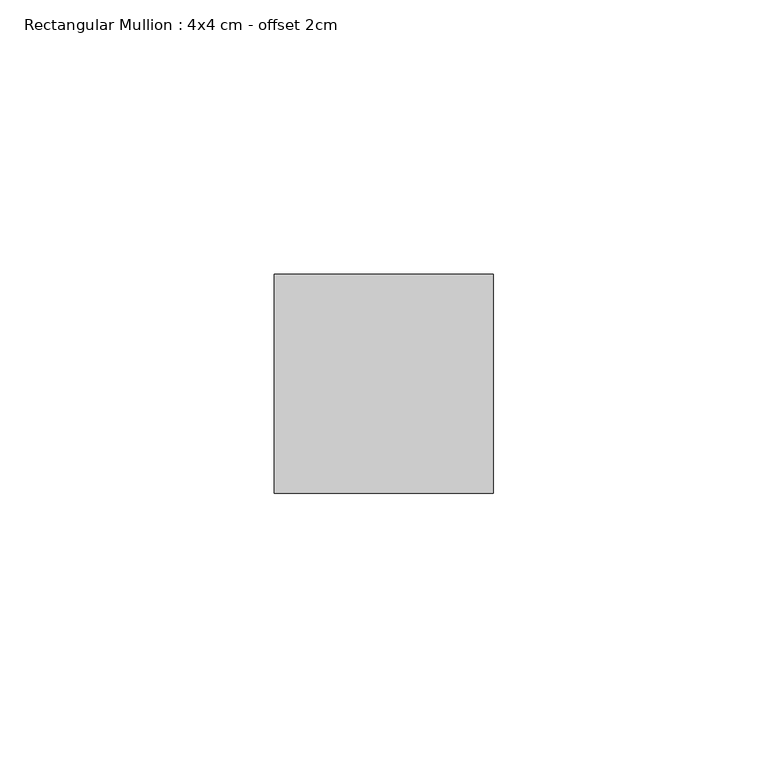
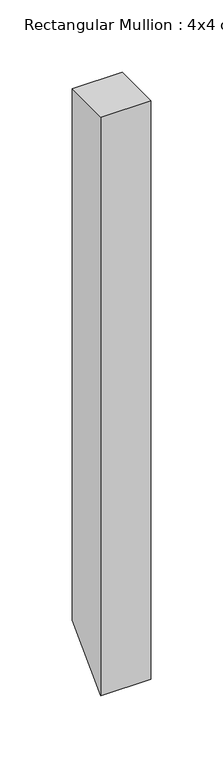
"""IFC4 building model written with IfcOpenShell, lengths in millimetres: member geometry, Rectangular Mullion : 4x4 cm - offset 2cm."""

from ifc_helpers import new_model, si_unit, frame, origin, place, context, project, spatial, polyline, outline, extrude, source, transform, mapped, element, save


def rectangular_mullion_4x4_cm_offset_2cm_072c56ac(model_context):
    return source(origin(), model_context, "Body", "SweptSolid", [
        extrude(outline(polyline([(0.0, 0.0), (40.0, 0.0), (40.0, -449.9999997), (0.0, -489.9999997), (0.0, 0.0)])), frame((-40.0, 0.0, 0.0), z_axis=(1.0, 0.0, 0.0), x_axis=(0.0, 1.0, 0.0)), (0.0, 0.0, 1.0), 40.0),
    ])


if __name__ == "__main__":
    model = new_model("IFC4")
    model_context = context("Model", 3, world=origin())
    ifc_project = project(units=[si_unit("LENGTHUNIT", "METRE", prefix="MILLI")], contexts=[model_context])
    site = spatial("IfcSite", under=ifc_project)
    building = spatial("IfcBuilding", under=site)
    placement = place(None, origin())
    rectangular_mullion_4x4_cm_offset_2cm_shape = rectangular_mullion_4x4_cm_offset_2cm_072c56ac(model_context)
    element("IfcMember", 1, ObjectType="Rectangular Mullion : 4x4 cm - offset 2cm", at=placement, inside=building, context=model_context, shape_type="MappedRepresentation", body=[
        mapped(rectangular_mullion_4x4_cm_offset_2cm_shape, transform((0.0, 0.0, 0.0), x_axis=(1.0, 0.0, 0.0), y_axis=(0.0, 1.0, 0.0), z_axis=(0.0, 0.0, 1.0))),
    ])
    save(model, "model.ifc")
